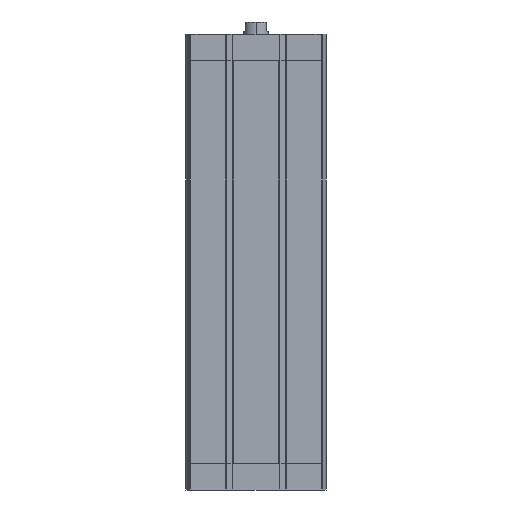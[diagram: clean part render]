
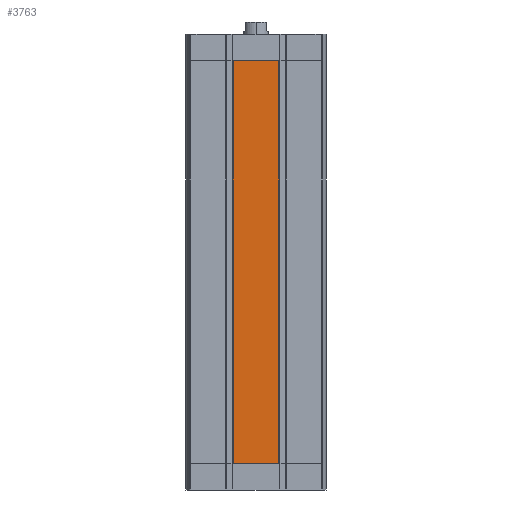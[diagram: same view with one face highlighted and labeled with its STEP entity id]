
A CAD part, left-side view. The second image highlights one B-rep face of the part: STEP entity #3763.
In plain terms, the highlighted planar face has unit normal (-1, 0, 0).
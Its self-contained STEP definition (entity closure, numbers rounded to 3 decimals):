
#386 = PLANE ( 'NONE',  #17612 ) ;
#640 = DIRECTION ( 'NONE',  ( 0., -1., 0. ) ) ;
#2959 = CARTESIAN_POINT ( 'NONE',  ( -56.5, -18.345, -345.5 ) ) ;
#2974 = EDGE_CURVE ( 'NONE', #14178, #3051, #6338, .T. ) ;
#3051 = VERTEX_POINT ( 'NONE', #17862 ) ;
#3412 = LINE ( 'NONE', #16263, #17896 ) ;
#3572 = DIRECTION ( 'NONE',  ( 0., 0., 1. ) ) ;
#3763 = ADVANCED_FACE ( 'NONE', ( #9943 ), #386, .T. ) ;
#4406 = ORIENTED_EDGE ( 'NONE', *, *, #19056, .T. ) ;
#5259 = VECTOR ( 'NONE', #18290, 1000. ) ;
#5271 = DIRECTION ( 'NONE',  ( 0., 0., 1. ) ) ;
#5374 = CARTESIAN_POINT ( 'NONE',  ( -56.5, -18.345, -345.5 ) ) ;
#5517 = ORIENTED_EDGE ( 'NONE', *, *, #11512, .T. ) ;
#6338 = LINE ( 'NONE', #15811, #15475 ) ;
#6425 = VECTOR ( 'NONE', #5271, 1000. ) ;
#9943 = FACE_OUTER_BOUND ( 'NONE', #17176, .T. ) ;
#10275 = VERTEX_POINT ( 'NONE', #17484 ) ;
#11512 = EDGE_CURVE ( 'NONE', #14178, #15759, #3412, .T. ) ;
#12022 = LINE ( 'NONE', #18095, #5259 ) ;
#13490 = LINE ( 'NONE', #5374, #6425 ) ;
#14178 = VERTEX_POINT ( 'NONE', #16248 ) ;
#14259 = EDGE_CURVE ( 'NONE', #3051, #10275, #12022, .T. ) ;
#14258 = DIRECTION ( 'NONE',  ( 0., 0., 1. ) ) ;
#14362 = CARTESIAN_POINT ( 'NONE',  ( -56.5, 18.345, -345.5 ) ) ;
#15475 = VECTOR ( 'NONE', #14258, 1000. ) ;
#15759 = VERTEX_POINT ( 'NONE', #2959 ) ;
#15811 = CARTESIAN_POINT ( 'NONE',  ( -56.5, 18.345, -345.5 ) ) ;
#16248 = CARTESIAN_POINT ( 'NONE',  ( -56.5, 18.345, -345.5 ) ) ;
#16263 = CARTESIAN_POINT ( 'NONE',  ( -56.5, 18.345, -345.5 ) ) ;
#16751 = ORIENTED_EDGE ( 'NONE', *, *, #14259, .F. ) ;
#17176 = EDGE_LOOP ( 'NONE', ( #16751, #18834, #5517, #4406 ) ) ;
#17484 = CARTESIAN_POINT ( 'NONE',  ( -56.5, -18.345, -21.5 ) ) ;
#17612 = AXIS2_PLACEMENT_3D ( 'NONE', #14362, #19192, #3572 ) ;
#17862 = CARTESIAN_POINT ( 'NONE',  ( -56.5, 18.345, -21.5 ) ) ;
#17896 = VECTOR ( 'NONE', #640, 1000. ) ;
#18095 = CARTESIAN_POINT ( 'NONE',  ( -56.5, 18.345, -21.5 ) ) ;
#18290 = DIRECTION ( 'NONE',  ( 0., -1., 0. ) ) ;
#18834 = ORIENTED_EDGE ( 'NONE', *, *, #2974, .F. ) ;
#19056 = EDGE_CURVE ( 'NONE', #15759, #10275, #13490, .T. ) ;
#19192 = DIRECTION ( 'NONE',  ( -1., 0., 0. ) ) ;
